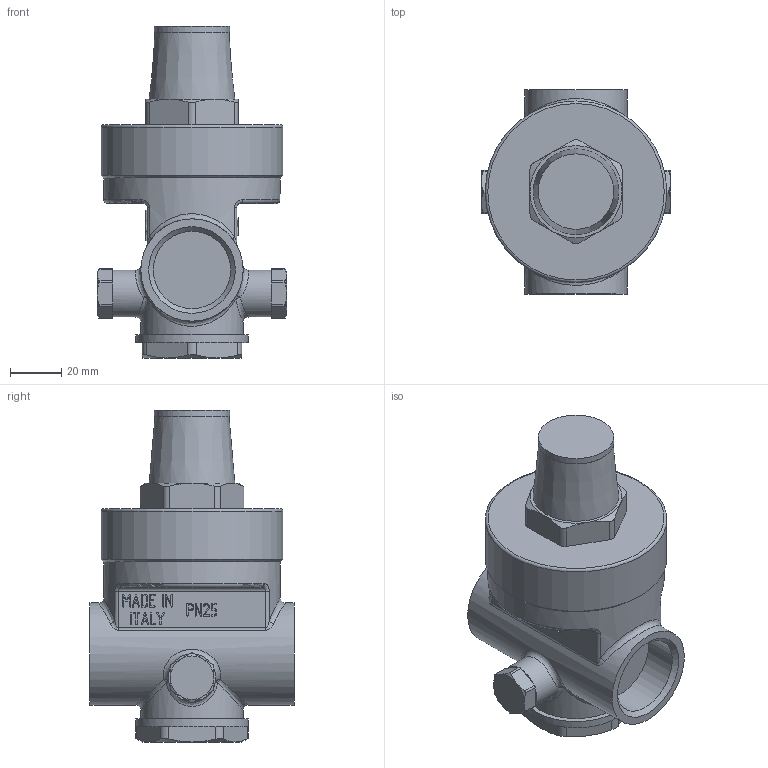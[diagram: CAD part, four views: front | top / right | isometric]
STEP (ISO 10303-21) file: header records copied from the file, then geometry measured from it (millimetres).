
FILE_DESCRIPTION(('STEP AP242'), '1');
FILE_NAME('VT.087.N.0645', '', ('UNSPECIFIED'), ('UNSPECIFIED'), 'C3D Converter', 'C3D Toolkit', '');
FILE_SCHEMA(('AP242_MANAGED_MODEL_BASED_3D_ENGINEERING_MIM_LF { 1 0 10303 442 1 1 4 }'));
Length unit declared in the file: millimetre
Bounding box: 74 x 79.8 x 129.8 mm (x, y, z)
Volume: 283598.6 mm3; surface area: 35849.7 mm2
Topology: 1 solids, 1 shells, 537 faces, 1444 edges, 940 vertices
Faces by surface type: plane 226, extrusion 218, cylinder 42, cone 28, bspline 20, torus 3
Full cylindrical faces by diameter (mm): 18.5 x2, 29.5 x1, 30.292 x2, 40 x2, 44 x1, 69 x1, 71 x1
Entity records: 21562 total; most frequent: CARTESIAN_POINT 9344, ORIENTED_EDGE 2810, DIRECTION 1777, EDGE_CURVE 1406, VECTOR 959, VERTEX_POINT 922, B_SPLINE_CURVE_WITH_KNOTS 779, LINE 741
